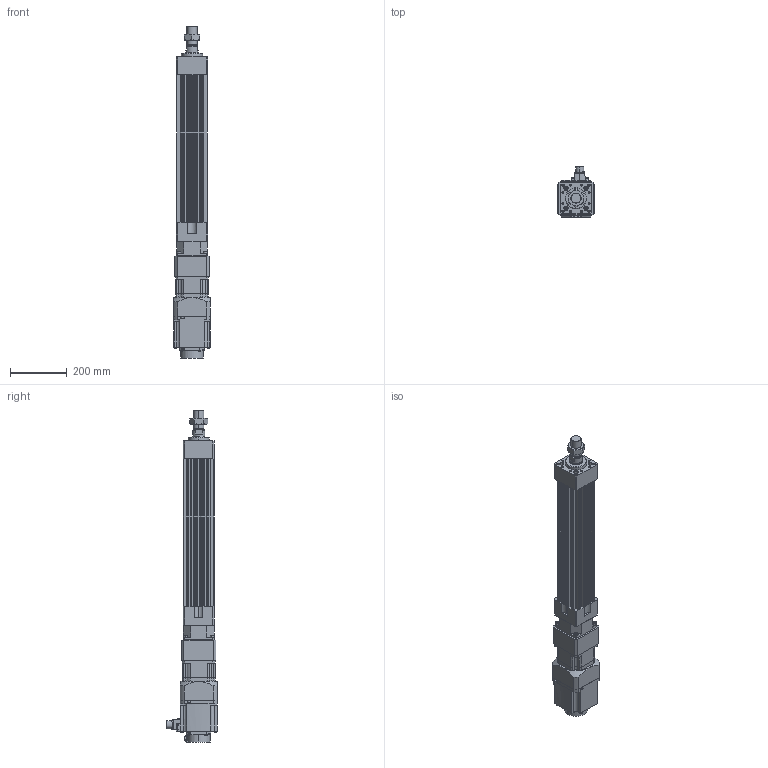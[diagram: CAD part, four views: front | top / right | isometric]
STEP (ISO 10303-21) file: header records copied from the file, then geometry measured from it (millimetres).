
FILE_DESCRIPTION (( 'STEP AP203' ), '1' );
FILE_NAME ('HES110NS(HS)-S350-W015G00-M.STEP', '2023-01-27T10:37:59', ( 'tms' ), ( '' ), 'SwSTEP 2.0', 'SolidWorks 2013', '' );
FILE_SCHEMA (( 'CONFIG_CONTROL_DESIGN' ));
Length unit declared in the file: millimetre
Products named in the file (8): AB115-003[HG-SR152]; M36X1.5P; P0401400706; HG-SR152; HES110-S350-G120; AB1151; HES110 ROD M ST350; HES110NS(HS)-S350-W015G00-M
Assembly tree (7 placements, depth 3):
  HES110NS(HS)-S350-W015G00-M
    HES110-S350-G120
    HES110 ROD M ST350
    M36X1.5P
    AB115-003[HG-SR152]
      AB1151
      P0401400706
    HG-SR152
Bounding box: 130 x 177.49 x 1171.5 mm (x, y, z)
Volume: 7459729.8 mm3; surface area: 1031950.6 mm2
Topology: 4 solids, 15 shells, 1202 faces, 3026 edges, 1951 vertices
Faces by surface type: plane 551, cylinder 537, cone 102, bspline 8, torus 4
Entity records: 37654 total; most frequent: CARTESIAN_POINT 7134, DIRECTION 6533, ORIENTED_EDGE 5960, EDGE_CURVE 2990, AXIS2_PLACEMENT_3D 2410, VERTEX_POINT 1951, VECTOR 1713, LINE 1713
